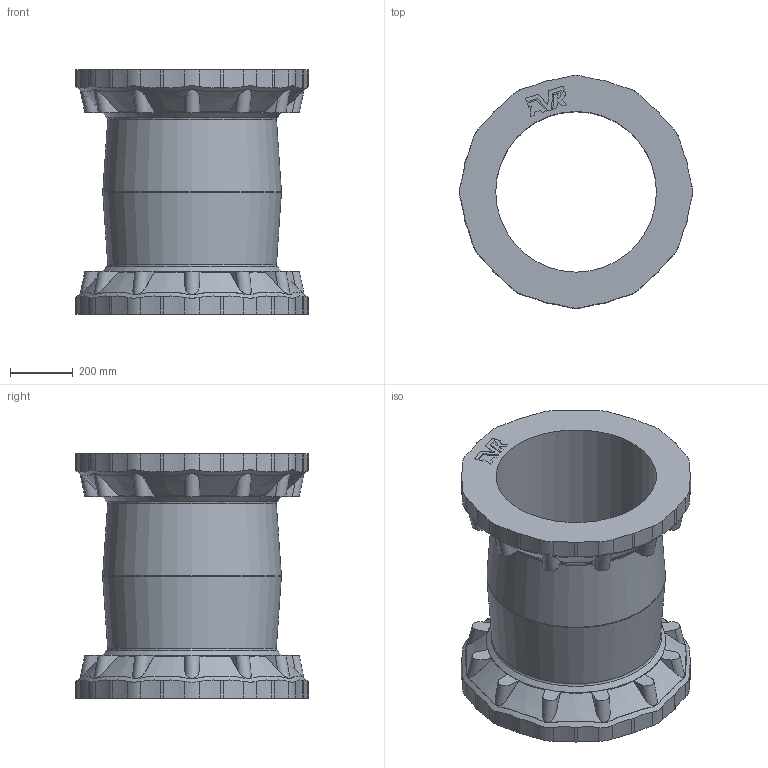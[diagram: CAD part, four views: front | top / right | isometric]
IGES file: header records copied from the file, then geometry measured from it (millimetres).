
Start section: SolidWorks IGES file using analytic representation for surfaces
Global section: file name: \\avksan2\techshare\PBM outline export from Enovia\O_631_00_DN450_AA0.igs; native system: SolidWorks 2012; preprocessor: SolidWorks 2012; author: pbm; date: 180703.074136; units: millimetre
Bounding box: 739.6 x 739 x 776.63 mm (x, y, z)
Surface area: 3395217 mm2 (no closed solid volume)
Topology: 0 solids, 0 shells, 460 faces, 3026 edges, 3020 vertices
Faces by surface type: bspline 240, revolution 220
